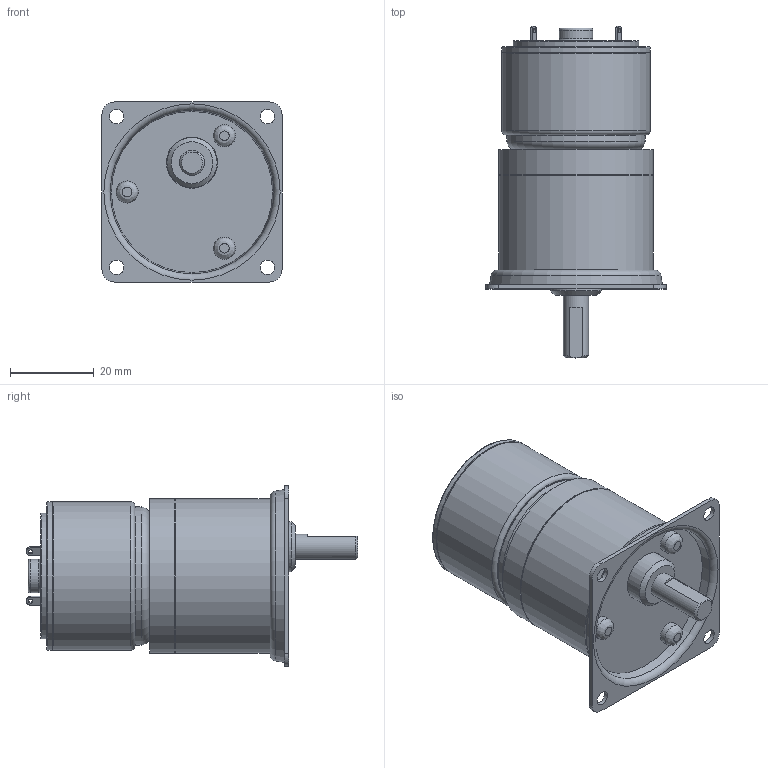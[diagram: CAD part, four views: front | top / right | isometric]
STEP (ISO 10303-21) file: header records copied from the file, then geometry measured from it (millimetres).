
FILE_DESCRIPTION((''),'2;1');
FILE_NAME('C:\Documents and Settings\SSEGAWA\デスクトップ\TP-3526E-PHM-4.STP','2013-07-09T16:15:44',('SSEGAWA'),(''),'Autodesk Inventor 2010','Autodesk Inventor 2010','');
FILE_SCHEMA(('CONFIG_CONTROL_DESIGN'));
Length unit declared in the file: millimetre
Products named in the file (5): tp_3526e_phm_4; phm_4; hm_4; □43; tp_3526e
Assembly tree (4 placements, depth 3):
  tp_3526e_phm_4
    phm_4
      hm_4
      □43
    tp_3526e
Bounding box: 43 x 79.3 x 43 mm (x, y, z)
Volume: 58918.5 mm3; surface area: 15532.2 mm2
Topology: 3 solids, 3 shells, 106 faces, 230 edges, 151 vertices
Faces by surface type: plane 39, cylinder 30, bspline 25, torus 7, cone 5
Full cylindrical faces by diameter (mm): 1.1 x1, 2 x1, 2.4 x1, 5 x1, 5.3 x3, 6 x1, 8 x1, 10 x1, 12 x1, 12.2 x1, 30 x1, 33 x1, 35 x1, 35.4 x2, 36.6 x1, 37 x2
Entity records: 3078 total; most frequent: CARTESIAN_POINT 983, DIRECTION 433, ORIENTED_EDGE 300, EDGE_LOOP 197, AXIS2_PLACEMENT_3D 195, EDGE_CURVE 150, VERTEX_POINT 127, FACE_OUTER_BOUND 106
